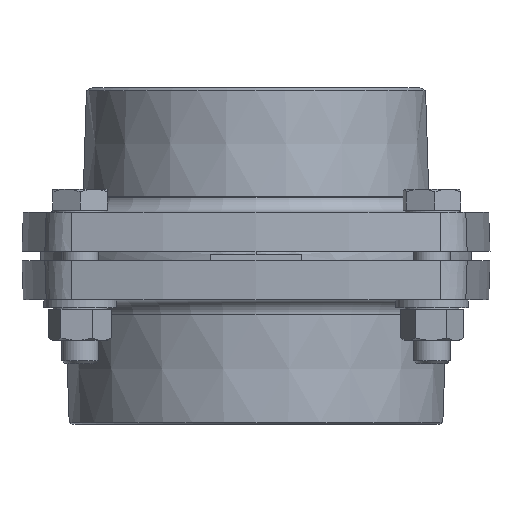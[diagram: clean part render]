
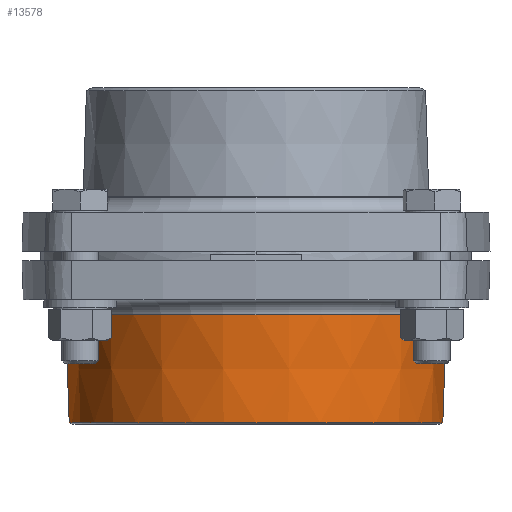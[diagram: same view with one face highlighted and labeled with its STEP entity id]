
A CAD part, front view. The second image highlights one B-rep face of the part: STEP entity #13578.
In plain terms, the highlighted conical face has half-angle 2 degrees and reference radius 63 mm.
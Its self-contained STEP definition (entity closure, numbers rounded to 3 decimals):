
#226 = ORIENTED_EDGE ( 'NONE', *, *, #15811, .T. ) ;
#227 = ORIENTED_EDGE ( 'NONE', *, *, #15810, .T. ) ;
#228 = ORIENTED_EDGE ( 'NONE', *, *, #15821, .T. ) ;
#229 = ORIENTED_EDGE ( 'NONE', *, *, #15809, .F. ) ;
#476 = EDGE_LOOP ( 'NONE', ( #226, #227, #228, #229 ) ) ;
#998 = VERTEX_POINT ( 'NONE', #3230 ) ;
#1016 = VERTEX_POINT ( 'NONE', #3248 ) ;
#1019 = VERTEX_POINT ( 'NONE', #3251 ) ;
#1027 = VERTEX_POINT ( 'NONE', #3259 ) ;
#3230 = CARTESIAN_POINT ( 'NONE',  ( 33.779, 14.557, -78.63 ) ) ;
#3248 = CARTESIAN_POINT ( 'NONE',  ( -89.399, 14.557, -78.63 ) ) ;
#3251 = CARTESIAN_POINT ( 'NONE',  ( -90.641, 14.557, -43.04 ) ) ;
#3259 = CARTESIAN_POINT ( 'NONE',  ( 35.021, 14.557, -43.04 ) ) ;
#8263 = DIRECTION ( 'NONE',  ( -0.035, 0., 0.999 ) ) ;
#8267 = CARTESIAN_POINT ( 'NONE',  ( -90.81, 14.557, -38.215 ) ) ;
#8272 = CARTESIAN_POINT ( 'NONE',  ( 35.19, 14.557, -38.215 ) ) ;
#8273 = DIRECTION ( 'NONE',  ( 0.035, 0., 0.999 ) ) ;
#8274 = CARTESIAN_POINT ( 'NONE',  ( -27.81, 14.557, -78.63 ) ) ;
#8275 = DIRECTION ( 'NONE',  ( 0., 0., 1. ) ) ;
#8276 = DIRECTION ( 'NONE',  ( 1., 0., 0. ) ) ;
#8302 = CARTESIAN_POINT ( 'NONE',  ( -27.81, 14.557, -43.04 ) ) ;
#8303 = DIRECTION ( 'NONE',  ( 0., 0., -1. ) ) ;
#8304 = DIRECTION ( 'NONE',  ( -1., 0., 0. ) ) ;
#9810 = FACE_OUTER_BOUND ( 'NONE', #476, .T. ) ;
#9815 = CONICAL_SURFACE ( 'NONE', #14973, 63., 0.035 ) ;
#10162 = CIRCLE ( 'NONE', #15171, 61.589 ) ;
#10164 = LINE ( 'NONE', #8267, #10166 ) ;
#10165 = LINE ( 'NONE', #8272, #10168 ) ;
#10166 = VECTOR ( 'NONE', #8263, 1000. ) ;
#10168 = VECTOR ( 'NONE', #8273, 1000. ) ;
#10181 = CIRCLE ( 'NONE', #15178, 62.831 ) ;
#13578 = ADVANCED_FACE ( 'NONE', ( #9810 ), #9815, .T. ) ;
#14329 = CARTESIAN_POINT ( 'NONE',  ( -27.81, 14.557, -38.215 ) ) ;
#14330 = DIRECTION ( 'NONE',  ( 0., 0., 1. ) ) ;
#14338 = DIRECTION ( 'NONE',  ( -1., 0., 0. ) ) ;
#14973 = AXIS2_PLACEMENT_3D ( 'NONE', #14329, #14330, #14338 ) ;
#15171 = AXIS2_PLACEMENT_3D ( 'NONE', #8274, #8275, #8276 ) ;
#15178 = AXIS2_PLACEMENT_3D ( 'NONE', #8302, #8303, #8304 ) ;
#15809 = EDGE_CURVE ( 'NONE', #1016, #1019, #10164, .T. ) ;
#15810 = EDGE_CURVE ( 'NONE', #998, #1027, #10165, .T. ) ;
#15811 = EDGE_CURVE ( 'NONE', #1016, #998, #10162, .T. ) ;
#15821 = EDGE_CURVE ( 'NONE', #1027, #1019, #10181, .T. ) ;
